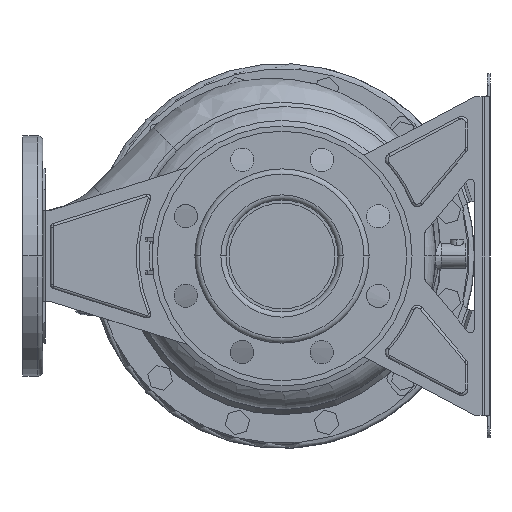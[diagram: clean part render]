
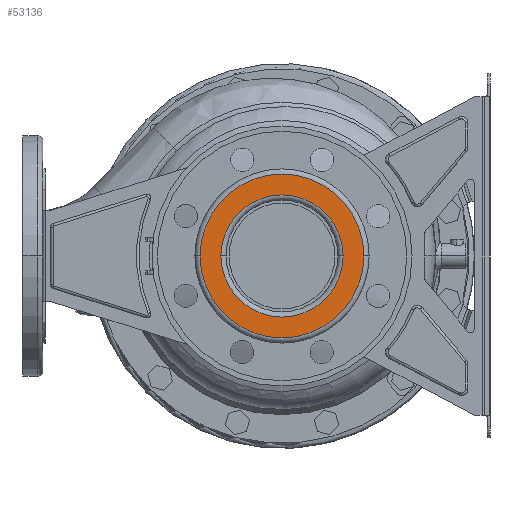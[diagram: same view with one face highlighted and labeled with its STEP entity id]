
A CAD part, front view. The second image highlights one B-rep face of the part: STEP entity #53136.
In plain terms, the highlighted planar face has unit normal (0, -1, 0).
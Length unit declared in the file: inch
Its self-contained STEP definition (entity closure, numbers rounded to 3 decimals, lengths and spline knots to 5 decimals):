
#1437 = FACE_OUTER_BOUND ( 'NONE', #66769, .T. ) ;
#5625 = AXIS2_PLACEMENT_3D ( 'NONE', #25767, #111371, #73668 ) ;
#7448 = VERTEX_POINT ( 'NONE', #131142 ) ;
#8729 = AXIS2_PLACEMENT_3D ( 'NONE', #73794, #84016, #72232 ) ;
#13770 = CIRCLE ( 'NONE', #8729, 1.85039 ) ;
#14029 = ORIENTED_EDGE ( 'NONE', *, *, #137718, .T. ) ;
#16591 = DIRECTION ( 'NONE',  ( -1., 0., 0. ) ) ;
#19981 = AXIS2_PLACEMENT_3D ( 'NONE', #87296, #145427, #16591 ) ;
#23923 = VERTEX_POINT ( 'NONE', #135709 ) ;
#25767 = CARTESIAN_POINT ( 'NONE',  ( 0., -9.52756, 0. ) ) ;
#27201 = CIRCLE ( 'NONE', #62279, 2.48031 ) ;
#29732 = VERTEX_POINT ( 'NONE', #141218 ) ;
#47217 = DIRECTION ( 'NONE',  ( 0., -1., 0. ) ) ;
#47978 = DIRECTION ( 'NONE',  ( -1., 0., 0. ) ) ;
#53136 = ADVANCED_FACE ( 'NONE', ( #1437, #98793 ), #72891, .F. ) ;
#58340 = ORIENTED_EDGE ( 'NONE', *, *, #69134, .F. ) ;
#62279 = AXIS2_PLACEMENT_3D ( 'NONE', #143020, #47217, #47978 ) ;
#66769 = EDGE_LOOP ( 'NONE', ( #94623, #14029 ) ) ;
#69134 = EDGE_CURVE ( 'NONE', #7448, #29732, #13770, .T. ) ;
#72232 = DIRECTION ( 'NONE',  ( -1., 0., 0. ) ) ;
#72891 = PLANE ( 'NONE',  #5625 ) ;
#73668 = DIRECTION ( 'NONE',  ( -1., 0., 0. ) ) ;
#73794 = CARTESIAN_POINT ( 'NONE',  ( 0., -9.52756, 0. ) ) ;
#84016 = DIRECTION ( 'NONE',  ( 0., -1., 0. ) ) ;
#85706 = AXIS2_PLACEMENT_3D ( 'NONE', #99800, #113147, #88018 ) ;
#87296 = CARTESIAN_POINT ( 'NONE',  ( 0., -9.52756, 0. ) ) ;
#87765 = CARTESIAN_POINT ( 'NONE',  ( -2.48031, -9.52756, 0. ) ) ;
#88018 = DIRECTION ( 'NONE',  ( -1., 0., 0. ) ) ;
#94623 = ORIENTED_EDGE ( 'NONE', *, *, #99614, .F. ) ;
#98793 = FACE_BOUND ( 'NONE', #146396, .T. ) ;
#99614 = EDGE_CURVE ( 'NONE', #150680, #23923, #105809, .T. ) ;
#99800 = CARTESIAN_POINT ( 'NONE',  ( 0., -9.52756, 0. ) ) ;
#105329 = CIRCLE ( 'NONE', #19981, 1.85039 ) ;
#105809 = CIRCLE ( 'NONE', #85706, 2.48031 ) ;
#111371 = DIRECTION ( 'NONE',  ( 0., 1., 0. ) ) ;
#113147 = DIRECTION ( 'NONE',  ( 0., 1., 0. ) ) ;
#123561 = EDGE_CURVE ( 'NONE', #7448, #29732, #105329, .T. ) ;
#131142 = CARTESIAN_POINT ( 'NONE',  ( -1.85039, -9.52756, 0. ) ) ;
#135709 = CARTESIAN_POINT ( 'NONE',  ( 2.48031, -9.52756, 0. ) ) ;
#137718 = EDGE_CURVE ( 'NONE', #150680, #23923, #27201, .T. ) ;
#141218 = CARTESIAN_POINT ( 'NONE',  ( 1.85039, -9.52756, 0. ) ) ;
#143020 = CARTESIAN_POINT ( 'NONE',  ( 0., -9.52756, 0. ) ) ;
#145427 = DIRECTION ( 'NONE',  ( 0., 1., 0. ) ) ;
#146396 = EDGE_LOOP ( 'NONE', ( #58340, #147345 ) ) ;
#147345 = ORIENTED_EDGE ( 'NONE', *, *, #123561, .T. ) ;
#150680 = VERTEX_POINT ( 'NONE', #87765 ) ;
